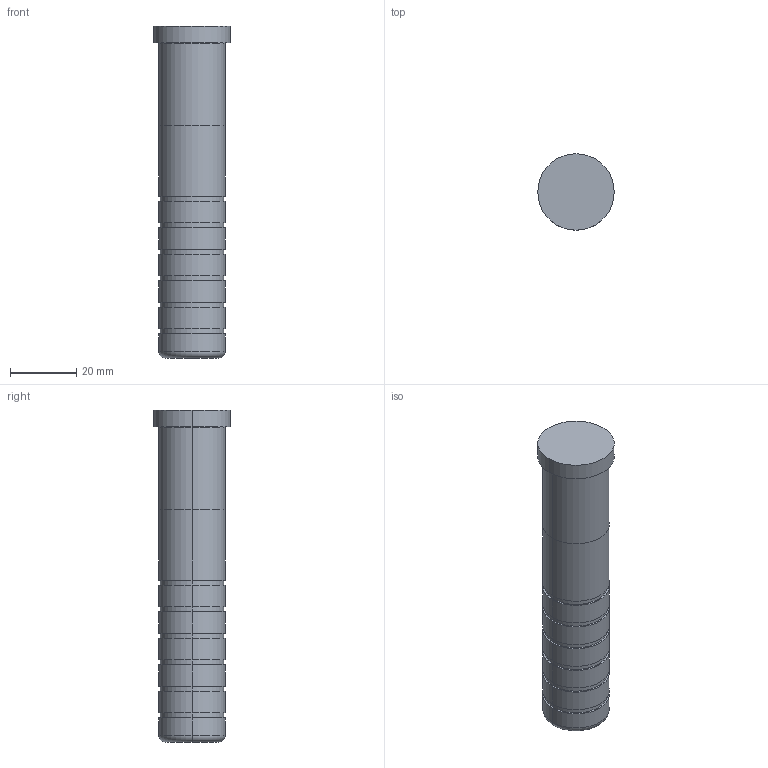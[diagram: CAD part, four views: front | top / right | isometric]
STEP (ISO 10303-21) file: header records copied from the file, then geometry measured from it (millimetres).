
FILE_DESCRIPTION(/* description */ (''),/* implementation_level */ '2;1');
FILE_NAME(/* name */ '3d_sgoh20-100_05196_r00.stp',/* time_stamp */ '2011-01-10T14:11:09+09:00',/* author */ ('MISUMI'),/* organization */ (''),/* preprocessor_version */ 'ST-DEVELOPER v11',/* originating_system */ 'UGS - NX 5.0',/* authorisation */ '');
FILE_SCHEMA (('CONFIG_CONTROL_DESIGN'));
Length unit declared in the file: millimetre
Products named in the file (1): 3d_sgoh20-100_05196_r00
Bounding box: 23 x 23 x 100 mm (x, y, z)
Volume: 31596.2 mm3; surface area: 7438.1 mm2
Topology: 1 solids, 1 shells, 49 faces, 96 edges, 62 vertices
Faces by surface type: cylinder 30, plane 15, torus 4
Entity records: 1374 total; most frequent: DIRECTION 262, CARTESIAN_POINT 208, ORIENTED_EDGE 192, AXIS2_PLACEMENT_3D 116, EDGE_CURVE 96, CIRCLE 66, EDGE_LOOP 62, VERTEX_POINT 62
